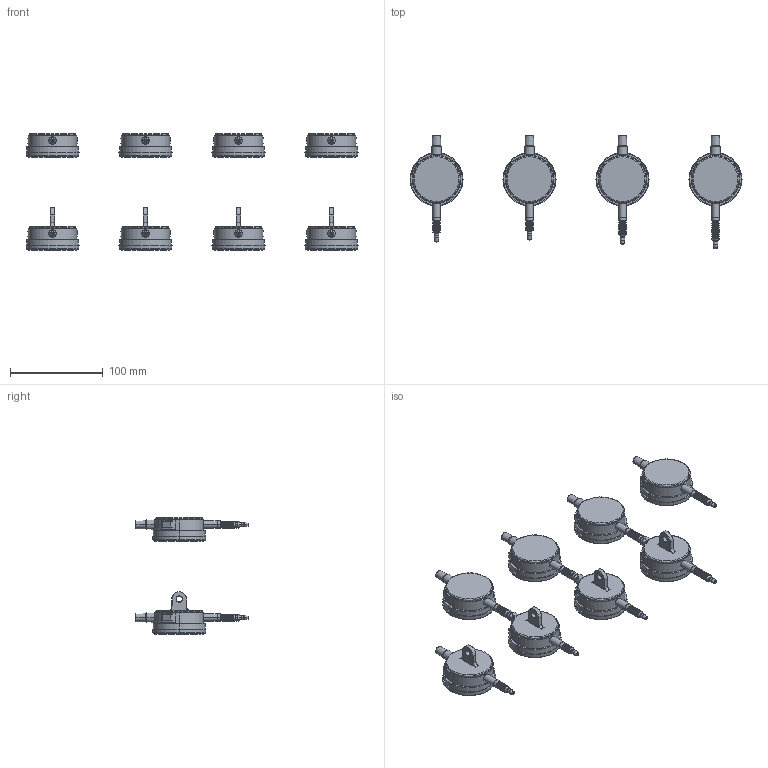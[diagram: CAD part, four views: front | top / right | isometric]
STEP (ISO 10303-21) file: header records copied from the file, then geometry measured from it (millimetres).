
FILE_DESCRIPTION(('Creo Elements/Direct Modeling STEP Export'),'2;1');
FILE_NAME('2046A(B)-60_2044A(B)-60_2109A(B)-70_2110A(B)-70.stp','2023-07-03T13:59:07',(''),(''),'Creo Elements/Direct Modeling STEP processor for AP214 (Solid Model)','Creo Elements/Direct Modeling 18.1I 13-Aug-2016 (C) Parametric Technology GmbH','');
FILE_SCHEMA(('AUTOMOTIVE_DESIGN { 1 0 10303 214 1 1 1 1 }'));
Length unit declared in the file: millimetre
Products named in the file (9): 03_2044A-60; 04_2044AB-60; 02_2046AB-60; 08_2110AB-70; 05_2109A-70; 07_2110A-70; 06_2109AB-70; 01_2046A-60; DG
Assembly tree (8 placements, depth 2):
  DG
    01_2046A-60
    06_2109AB-70
    07_2110A-70
    05_2109A-70
    08_2110AB-70
    02_2046AB-60
    04_2044AB-60
    03_2044A-60
Bounding box: 357 x 121.9 x 125.7 mm (x, y, z)
Volume: 497056.3 mm3; surface area: 91146.8 mm2
Topology: 8 solids, 8 shells, 1516 faces, 3616 edges, 2176 vertices
Faces by surface type: cone 440, cylinder 388, plane 352, torus 288, bspline 32, sphere 16
Entity records: 53539 total; most frequent: CARTESIAN_POINT 20157, ORIENTED_EDGE 7200, DIRECTION 6778, EDGE_CURVE 3600, AXIS2_PLACEMENT_3D 2653, VERTEX_POINT 2176, EDGE_LOOP 1584, FACE_OUTER_BOUND 1500
